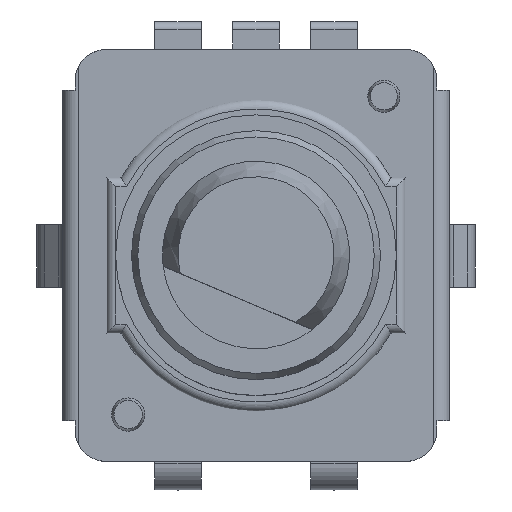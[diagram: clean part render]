
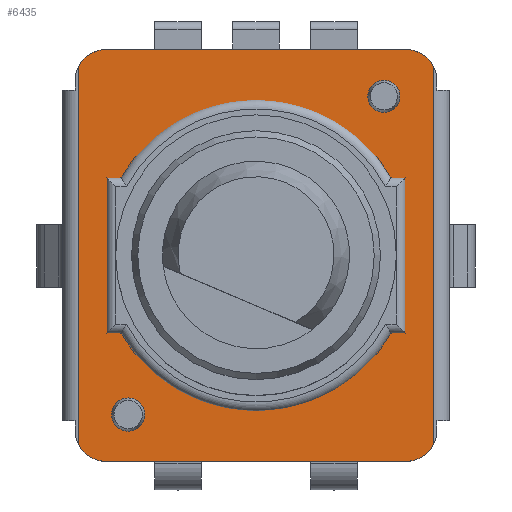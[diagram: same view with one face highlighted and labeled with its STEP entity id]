
A CAD part, top view. The second image highlights one B-rep face of the part: STEP entity #6435.
In plain terms, the highlighted planar face has unit normal (0, 0, 1).
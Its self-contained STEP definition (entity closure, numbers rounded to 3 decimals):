
#671=LINE($,#10443,#1447);
#689=LINE($,#10504,#1465);
#698=LINE($,#10538,#1474);
#699=LINE($,#10539,#1475);
#1447=VECTOR($,#8448,9.6);
#1465=VECTOR($,#8494,9.6);
#1474=VECTOR($,#8523,12.072);
#1475=VECTOR($,#8524,12.072);
#1838=PLANE($,#6956);
#2154=FACE_OUTER_BOUND($,#2498,.T.);
#2498=EDGE_LOOP($,(#5694,#5695,#5696,#5697,#5698,#5699,#5700,#5701));
#2709=CIRCLE($,#6931,1.);
#2710=CIRCLE($,#6935,1.);
#2715=CIRCLE($,#6945,1.);
#2716=CIRCLE($,#6948,1.);
#3272=VERTEX_POINT($,#10429);
#3274=VERTEX_POINT($,#10437);
#3275=VERTEX_POINT($,#10442);
#3278=VERTEX_POINT($,#10451);
#3290=VERTEX_POINT($,#10491);
#3291=VERTEX_POINT($,#10498);
#3292=VERTEX_POINT($,#10502);
#3294=VERTEX_POINT($,#10507);
#4151=EDGE_CURVE($,#3272,#3274,#2709,.T.);
#4154=EDGE_CURVE($,#3274,#3275,#671,.T.);
#4160=EDGE_CURVE($,#3275,#3278,#2710,.T.);
#4177=EDGE_CURVE($,#3290,#3291,#2715,.T.);
#4180=EDGE_CURVE($,#3291,#3292,#689,.T.);
#4183=EDGE_CURVE($,#3292,#3294,#2716,.T.);
#4195=EDGE_CURVE($,#3278,#3290,#698,.T.);
#4196=EDGE_CURVE($,#3294,#3272,#699,.T.);
#5694=ORIENTED_EDGE($,*,*,#4195,.F.);
#5695=ORIENTED_EDGE($,*,*,#4160,.F.);
#5696=ORIENTED_EDGE($,*,*,#4154,.F.);
#5697=ORIENTED_EDGE($,*,*,#4151,.F.);
#5698=ORIENTED_EDGE($,*,*,#4196,.F.);
#5699=ORIENTED_EDGE($,*,*,#4183,.F.);
#5700=ORIENTED_EDGE($,*,*,#4180,.F.);
#5701=ORIENTED_EDGE($,*,*,#4177,.F.);
#6435=ADVANCED_FACE($,(#2154),#1838,.T.);
#6931=AXIS2_PLACEMENT_3D($,#10438,#8442,#8443);
#6935=AXIS2_PLACEMENT_3D($,#10459,#8457,#8458);
#6945=AXIS2_PLACEMENT_3D($,#10499,#8488,#8489);
#6948=AXIS2_PLACEMENT_3D($,#10515,#8498,#8499);
#6956=AXIS2_PLACEMENT_3D($,#10537,#8521,#8522);
#8442=DIRECTION('center_axis',(0.,0.,-1.));
#8443=DIRECTION('ref_axis',(0.707,-0.707,0.));
#8448=DIRECTION($,(-1.,0.,0.));
#8457=DIRECTION('center_axis',(0.,0.,-1.));
#8458=DIRECTION('ref_axis',(-0.707,-0.707,0.));
#8488=DIRECTION('center_axis',(0.,0.,-1.));
#8489=DIRECTION('ref_axis',(-0.707,0.707,0.));
#8494=DIRECTION($,(1.,0.,0.));
#8498=DIRECTION('center_axis',(0.,0.,-1.));
#8499=DIRECTION('ref_axis',(0.707,0.707,0.));
#8521=DIRECTION('center_axis',(0.,0.,1.));
#8522=DIRECTION('ref_axis',(1.,0.,0.));
#8523=DIRECTION($,(0.,1.,0.));
#8524=DIRECTION($,(0.,-1.,0.));
#10429=CARTESIAN_POINT('',(5.7,-6.036,6.5));
#10437=CARTESIAN_POINT('',(4.8,-6.6,6.5));
#10438=CARTESIAN_POINT('Origin',(4.8,-5.6,6.5));
#10442=CARTESIAN_POINT('',(-4.8,-6.6,6.5));
#10443=CARTESIAN_POINT($,(4.8,-6.6,6.5));
#10451=CARTESIAN_POINT('',(-5.7,-6.036,6.5));
#10459=CARTESIAN_POINT('Origin',(-4.8,-5.6,6.5));
#10491=CARTESIAN_POINT('',(-5.7,6.036,6.5));
#10498=CARTESIAN_POINT('',(-4.8,6.6,6.5));
#10499=CARTESIAN_POINT('Origin',(-4.8,5.6,6.5));
#10502=CARTESIAN_POINT('',(4.8,6.6,6.5));
#10504=CARTESIAN_POINT($,(-4.8,6.6,6.5));
#10507=CARTESIAN_POINT('',(5.7,6.036,6.5));
#10515=CARTESIAN_POINT('Origin',(4.8,5.6,6.5));
#10537=CARTESIAN_POINT('Origin',(0.,0.,
6.5));
#10538=CARTESIAN_POINT($,(-5.7,-6.036,6.5));
#10539=CARTESIAN_POINT($,(5.7,6.036,6.5));
